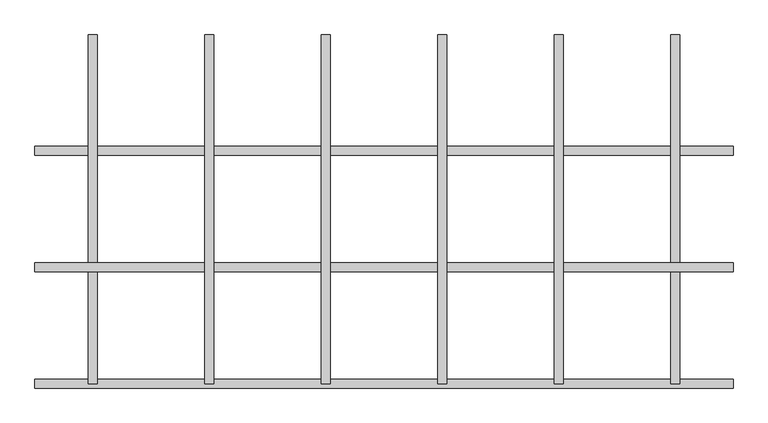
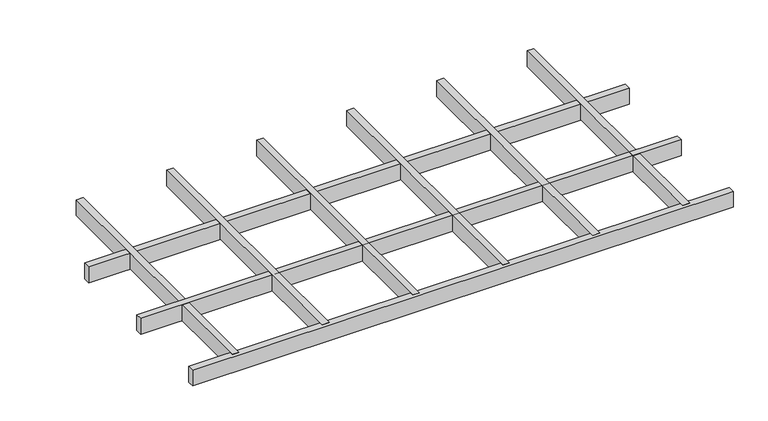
"""IFC4 building model written with IfcOpenShell, lengths in millimetres: proxy geometry, durlum_GEO_panel : durlum_GEO_15."""

from ifc_helpers import new_model, si_unit, origin, origin_with_axes, place, context, project, spatial, polyline, outline, extrude, source, transform, mapped, element, save


def generic_models_deb741b8(model_context):
    return source(origin(), model_context, "Body", "SweptSolid", [
        extrude(outline(polyline([(292.5, 299.5), (307.5, 299.5), (307.5, -299.5), (292.5, -299.5), (292.5, 299.5)])), origin_with_axes(), (0.0, 0.0, 1.0), 37.0),
        extrude(outline(polyline([(92.5, 299.5), (107.5, 299.5), (107.5, -299.5), (92.5, -299.5), (92.5, 299.5)])), origin_with_axes(), (0.0, 0.0, 1.0), 37.0),
        extrude(outline(polyline([(-107.5, 299.5), (-92.5, 299.5), (-92.5, -299.5), (-107.5, -299.5), (-107.5, 299.5)])), origin_with_axes(), (0.0, 0.0, 1.0), 37.0),
        extrude(outline(polyline([(-307.5, 299.5), (-292.5, 299.5), (-292.5, -299.5), (-307.5, -299.5), (-307.5, 299.5)])), origin_with_axes(), (0.0, 0.0, 1.0), 37.0),
        extrude(outline(polyline([(599.5, -92.0), (599.5, -107.0), (-599.5, -107.0), (-599.5, -92.0), (599.5, -92.0)])), origin_with_axes(), (0.0, 0.0, 1.0), 37.0),
        extrude(outline(polyline([(492.5, 299.5), (507.5, 299.5), (507.5, -299.5), (492.5, -299.5), (492.5, 299.5)])), origin_with_axes(), (0.0, 0.0, 1.0), 37.0),
        extrude(outline(polyline([(-507.5, 299.5), (-492.5, 299.5), (-492.5, -299.5), (-507.5, -299.5), (-507.5, 299.5)])), origin_with_axes(), (0.0, 0.0, 1.0), 37.0),
        extrude(outline(polyline([(599.5, -292.0), (599.5, -307.0), (-599.5, -307.0), (-599.5, -292.0), (599.5, -292.0)])), origin_with_axes(), (0.0, 0.0, 1.0), 37.0),
        extrude(outline(polyline([(599.5, 108.0), (599.5, 93.0), (-599.5, 93.0), (-599.5, 108.0), (599.5, 108.0)])), origin_with_axes(), (0.0, 0.0, 1.0), 37.0),
    ])


if __name__ == "__main__":
    model = new_model("IFC4")
    model_context = context("Model", 3, world=origin())
    ifc_project = project(units=[si_unit("LENGTHUNIT", "METRE", prefix="MILLI")], contexts=[model_context])
    site = spatial("IfcSite", under=ifc_project)
    building = spatial("IfcBuilding", under=site)
    placement = place(None, origin())
    generic_models_shape = generic_models_deb741b8(model_context)
    element("IfcBuildingElementProxy", 1, Name="durlum_GEO_panel : durlum_GEO_15", ObjectType="durlum_GEO_panel : durlum_GEO_15", at=placement, inside=building, context=model_context, shape_type="MappedRepresentation", body=[
        mapped(generic_models_shape, transform((0.0, 0.0, 0.0), x_axis=(1.0, 0.0, 0.0), y_axis=(0.0, 1.0, 0.0), z_axis=(0.0, 0.0, 1.0))),
    ])
    save(model, "model.ifc")
